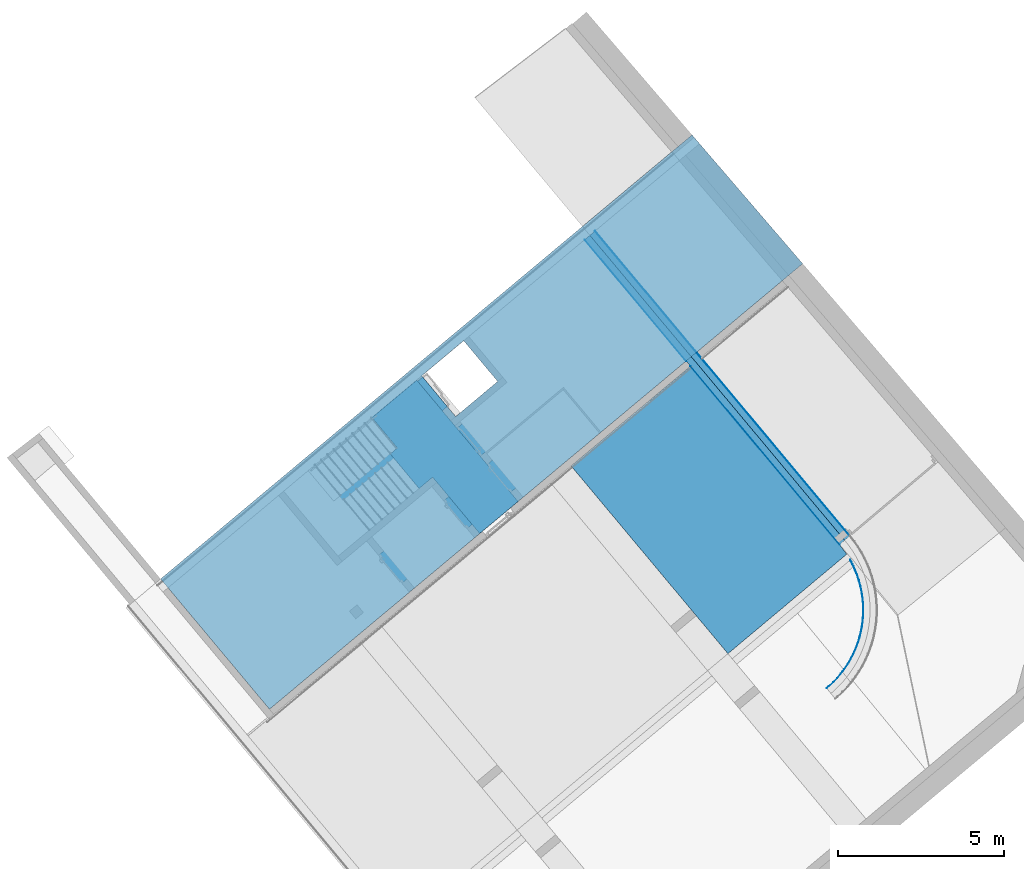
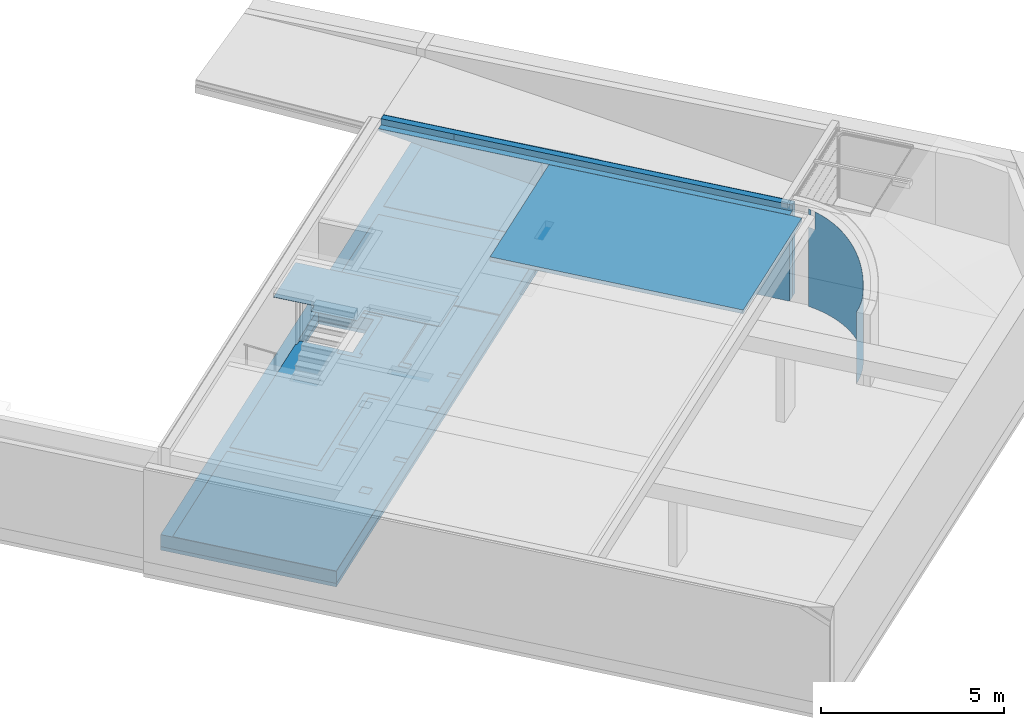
# One storey, part 10 of 14: 11 building element parts, 5 elements without a shape of their own.
"""IFC4 building model written with IfcOpenShell, lengths in metres."""

from ifc_helpers import new_model, entity, si_unit, converted_unit, derived_unit, direction, frame, origin_with_axes, place, context, subcontext, project, spatial, polygons, material, type_object, element, aggregate, save


model = new_model("IFC4")

# Units and contexts
model_context = context("Model", 3, precision=1e-05, world=origin_with_axes(), true_north=direction((0.0, 1.0)))
body_context = subcontext(model_context, "Body", "Model", "MODEL_VIEW")
ifc_project = project(units=[si_unit("LENGTHUNIT", "METRE"), si_unit("AREAUNIT", "SQUARE_METRE"), si_unit("VOLUMEUNIT", "CUBIC_METRE"), converted_unit("PLANEANGLEUNIT", "DEGREE", entity("IfcPlaneAngleMeasure", 0.0174532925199), si_unit("PLANEANGLEUNIT", "RADIAN"), dimensions=[0, 0, 0, 0, 0, 0, 0]), converted_unit("TIMEUNIT", "Year", entity("IfcTimeMeasure", 31556926.0), si_unit("TIMEUNIT", "SECOND"), dimensions=[0, 0, 1, 0, 0, 0, 0]), si_unit("MASSUNIT", "GRAM", prefix="KILO"), si_unit("THERMODYNAMICTEMPERATUREUNIT", "DEGREE_CELSIUS"), si_unit("LUMINOUSINTENSITYUNIT", "LUMEN"), si_unit("ENERGYUNIT", "JOULE", prefix="MEGA"), derived_unit("THERMALCONDUCTANCEUNIT", [(si_unit("POWERUNIT", "WATT"), 1), (si_unit("LENGTHUNIT", "METRE"), -1), (si_unit("THERMODYNAMICTEMPERATUREUNIT", "KELVIN"), -1)]), derived_unit("SPECIFICHEATCAPACITYUNIT", [(si_unit("ENERGYUNIT", "JOULE"), 1), (si_unit("MASSUNIT", "GRAM", prefix="KILO"), -1), (si_unit("THERMODYNAMICTEMPERATUREUNIT", "KELVIN"), -1)]), derived_unit("MASSDENSITYUNIT", [(si_unit("MASSUNIT", "GRAM", prefix="KILO"), 1), (si_unit("VOLUMEUNIT", "CUBIC_METRE"), -1)])], contexts=[model_context])

# Site, building, storey, space
site_placement = place(None, frame((-0.00153261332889, -0.00661245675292, 0.0), z_axis=(0.0, 0.0, 1.0), x_axis=(1.0, 0.0, 0.0)))
site = spatial("IfcSite", under=ifc_project, at=site_placement, Name="Gelände", CompositionType="ELEMENT")
building_placement = place(site_placement, origin_with_axes())
building = spatial("IfcBuilding", under=site, at=building_placement, Name="Gebäude", CompositionType="ELEMENT")
storey_placement = place(building_placement, frame((0.0, 0.0, -3.3), z_axis=(0.0, 0.0, 1.0), x_axis=(1.0, 0.0, 0.0)))
storey = spatial("IfcBuildingStorey", under=building, at=storey_placement, Name="UG1", CompositionType="ELEMENT", Elevation=-3.3)
space_1_placement = place(storey_placement, frame((3.39972062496, 22.3471640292, 0.0), z_axis=(0.0, 0.0, 1.0), x_axis=(0.767365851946, 0.641209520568, 0.0)))
space_1 = spatial("IfcSpace", under=storey, at=space_1_placement, CompositionType="ELEMENT", PredefinedType="NOTDEFINED")

# Slab, building element parts
slab_type = type_object("IfcSlabType", Name="EB 02 Bodenplatte Einstellräume 535", PredefinedType="NOTDEFINED")
slab_placement = place(space_1_placement, frame((10.9242726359, 5.12701550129, 0.015), z_axis=(0.0, 0.0, 1.0), x_axis=(0.767365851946, -0.641209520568, 0.0)))
slab = element("IfcSlab", 1, at=slab_placement, inside=space_1, type_object=slab_type, Name="Decke-005", PredefinedType="NOTDEFINED")
ifc_material_1 = material(Name="Fliesen")
building_element_part_1_placement = place(slab_placement, origin_with_axes())
building_element_part_1 = element("IfcBuildingElementPart", 2, at=building_element_part_1_placement, material=ifc_material_1, Name="Fliesen", PredefinedType="NOTDEFINED", context=body_context, shape_type="Tessellation", body=[
    polygons([(0.0, 0.0, -0.015), (2.91156954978, -3.38842582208, -0.015), (0.228088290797, -0.265531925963, -0.015), (0.0651400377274, -0.0759013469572, -0.015), (-4.74195917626e-05, -3.96237258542e-05, -0.015), (0.0, 0.0, 0.0), (2.91156954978, -3.38842582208, 0.0), (-4.74195917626e-05, -3.96237258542e-05, 0.0)], [[[1, 2, 3, 4, 5]], [[6, 7, 2, 1]], [[4, 3, 2, 7, 8, 5]], [[1, 5, 8, 6]], [[6, 8, 7]]], closed=True),
    polygons([(-8.52949755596, -13.8084018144, -0.015), (-12.754417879, -17.3387376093, -0.015), (-15.817412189, -13.6731070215, -0.015), (-12.4796786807, -10.8841062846, -0.015), (-10.7104439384, -13.0014334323, -0.015), (-10.556970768, -12.8731915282, -0.015), (-9.82325546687, -12.2601003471, -0.015), (-9.46329339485, -12.6908840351, -0.015), (-9.30982022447, -12.562642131, -0.015), (-9.66978229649, -12.131858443, -0.015), (-7.85496992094, -10.6154044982, -0.015), (-7.49659853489, -11.0442845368, -0.015), (-7.3431253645, -10.9160426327, -0.015), (-7.70149675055, -10.4871625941, -0.015), (-7.82973865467, -10.3336894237, -0.015), (-10.6852126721, -12.7197183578, -0.015), (-12.3262054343, -10.7558644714, -0.015), (-8.31195981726, -7.4015721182, -0.015), (-8.28311508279, -7.43609198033, -0.015), (-8.1296419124, -7.30785007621, -0.015), (-7.38583886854, -8.19799446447, -0.015), (-7.53931203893, -8.32623636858, -0.015), (-7.09678040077, -8.85583497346, -0.015), (-6.94330723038, -8.72759306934, -0.015), (-7.0043192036, -8.65457714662, -0.015), (-5.58409177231, -7.46783766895, -0.015), (-5.71234465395, -7.31437367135, -0.015), (-6.73835723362, -6.08667422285, -0.015), (-3.24038403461, -3.16377765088, -0.015), (-0.177470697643, -6.82946324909, -0.015), (-2.74727251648, -8.97678500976, -0.015), (-3.84802719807, -7.65945966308, -0.015), (-3.8800876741, -7.62109137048, -0.015), (-6.228311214, -9.58326272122, -0.015), (-6.23797675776, -9.57169550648, -0.015), (-6.39144992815, -9.69993741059, -0.015), (-6.18276801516, -9.94967695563, -0.015), (-6.02929484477, -9.82143505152, -0.015), (-6.19625073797, -9.62163101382, -0.015), (-3.88639549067, -7.69152013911, -0.015), (-2.78564080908, -9.00884548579, -0.015), (-5.09549605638, -10.9389563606, -0.015), (-5.32396437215, -10.6655374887, -0.015), (-5.47743754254, -10.7937793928, -0.015), (-5.24896922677, -11.0671982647, -0.015), (-6.40773883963, -12.0354640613, -0.015), (-6.63779489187, -11.7601450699, -0.015), (-6.79126806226, -11.888386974, -0.015), (-6.56121201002, -12.1637059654, -0.015), (-8.37602438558, -13.6801599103, -0.015), (-8.60448975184, -13.4067445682, -0.015), (-8.75796292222, -13.5349864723, -0.015), (-10.341209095, -14.379581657, -0.015), (-10.1488462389, -14.6097914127, -0.015), (-9.91863648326, -14.4174285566, -0.015), (-10.1109993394, -14.187218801, -0.015), (-12.754417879, -17.3387376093, 0.0), (-8.52949755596, -13.8084018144, 0.0), (-15.817412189, -13.6731070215, 0.0), (-12.4796786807, -10.8841062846, 0.0), (-10.7104439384, -13.0014334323, 0.0), (-10.556970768, -12.8731915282, 0.0), (-9.82325546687, -12.2601003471, 0.0), (-9.46329339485, -12.6908840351, 0.0), (-9.30982022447, -12.562642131, 0.0), (-9.66978229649, -12.131858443, 0.0), (-7.85496992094, -10.6154044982, 0.0), (-7.49659853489, -11.0442845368, 0.0), (-7.3431253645, -10.9160426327, 0.0), (-7.70149675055, -10.4871625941, 0.0), (-7.82973865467, -10.3336894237, 0.0), (-10.6852126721, -12.7197183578, 0.0), (-12.3262054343, -10.7558644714, 0.0), (-8.31195981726, -7.4015721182, 0.0), (-8.28311508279, -7.43609198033, 0.0), (-8.1296419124, -7.30785007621, 0.0), (-7.38583886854, -8.19799446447, 0.0), (-7.53931203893, -8.32623636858, 0.0), (-7.09678040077, -8.85583497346, 0.0), (-6.94330723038, -8.72759306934, 0.0), (-7.0043192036, -8.65457714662, 0.0), (-5.58409177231, -7.46783766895, 0.0), (-5.71234465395, -7.31437367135, 0.0), (-6.73835723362, -6.08667422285, 0.0), (-3.24038403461, -3.16377765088, 0.0), (-0.177470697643, -6.82946324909, 0.0), (-2.74727251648, -8.97678500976, 0.0), (-3.84802719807, -7.65945966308, 0.0), (-3.8800876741, -7.62109137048, 0.0), (-6.228311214, -9.58326272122, 0.0), (-6.23797675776, -9.57169550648, 0.0), (-6.39144992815, -9.69993741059, 0.0), (-6.18276801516, -9.94967695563, 0.0), (-6.02929484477, -9.82143505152, 0.0), (-6.19625073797, -9.62163101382, 0.0), (-3.88639549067, -7.69152013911, 0.0), (-2.78564080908, -9.00884548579, 0.0), (-5.09549605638, -10.9389563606, 0.0), (-5.32396437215, -10.6655374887, 0.0), (-5.47743754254, -10.7937793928, 0.0), (-5.24896922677, -11.0671982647, 0.0), (-6.40773883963, -12.0354640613, 0.0), (-6.63779489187, -11.7601450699, 0.0), (-6.79126806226, -11.888386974, 0.0), (-6.56121201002, -12.1637059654, 0.0), (-8.37602438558, -13.6801599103, 0.0), (-8.60448975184, -13.4067445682, 0.0), (-8.75796292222, -13.5349864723, 0.0), (-10.341209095, -14.379581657, 0.0), (-10.1488462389, -14.6097914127, 0.0), (-9.91863648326, -14.4174285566, 0.0), (-10.1109993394, -14.187218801, 0.0)], [[[1, 2, 3, 4, 5, 6, 7, 8, 9, 10, 11, 12, 13, 14, 15, 16, 17, 18, 19, 20, 21, 22, 23, 24, 25, 26, 27, 28, 29, 30, 31, 32, 33, 34, 35, 36, 37, 38, 39, 40, 41, 42, 43, 44, 45, 46, 47, 48, 49, 50, 51, 52], [53, 54, 55, 56]], [[57, 2, 1, 58]], [[59, 3, 2, 57]], [[4, 3, 59, 60]], [[60, 61, 5, 4]], [[6, 5, 61, 62]], [[63, 7, 6, 62]], [[64, 8, 7, 63]], [[65, 9, 8, 64]], [[66, 10, 9, 65]], [[67, 11, 10, 66]], [[68, 12, 11, 67]], [[13, 12, 68, 69]], [[69, 70, 14, 13]], [[15, 14, 70, 71]], [[72, 16, 15, 71]], [[73, 17, 16, 72]], [[18, 17, 73, 74]], [[75, 19, 18, 74]], [[76, 20, 19, 75]], [[77, 21, 20, 76]], [[77, 78, 22, 21]], [[23, 22, 78, 79]], [[80, 24, 23, 79]], [[81, 25, 24, 80]], [[26, 25, 81, 82]], [[83, 27, 26, 82]], [[84, 28, 27, 83]], [[85, 29, 28, 84]], [[30, 29, 85, 86]], [[86, 87, 31, 30]], [[88, 32, 31, 87]], [[89, 33, 32, 88]], [[90, 34, 33, 89]], [[91, 35, 34, 90]], [[91, 92, 36, 35]], [[93, 37, 36, 92]], [[94, 38, 37, 93]], [[39, 38, 94, 95]], [[96, 40, 39, 95]], [[97, 41, 40, 96]], [[97, 98, 42, 41]], [[99, 43, 42, 98]], [[100, 44, 43, 99]], [[101, 45, 44, 100]], [[102, 46, 45, 101]], [[103, 47, 46, 102]], [[104, 48, 47, 103]], [[105, 49, 48, 104]], [[105, 106, 50, 49]], [[107, 51, 50, 106]], [[108, 52, 51, 107]], [[58, 1, 52, 108]], [[109, 110, 54, 53]], [[110, 111, 55, 54]], [[111, 112, 56, 55]], [[112, 109, 53, 56]], [[60, 59, 57, 58, 108, 107, 106, 105, 104, 103, 102, 101, 100, 99, 98, 97, 96, 95, 94, 93, 92, 91, 90, 89, 88, 87, 86, 85, 84, 83, 82, 81, 80, 79, 78, 77, 76, 75, 74, 73, 72, 71, 70, 69, 68, 67, 66, 65, 64, 63, 62, 61], [109, 112, 111, 110]]], closed=True),
    polygons([(-5.86581782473, -7.4426155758, -0.015), (-7.13255494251, -8.50109882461, -0.015), (-5.86597913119, -7.44260112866, -0.015), (-6.89183048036, -6.2149160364, -0.015), (-5.86581782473, -7.4426155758, 0.0), (-7.13255494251, -8.50109882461, 0.0), (-5.86597913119, -7.44260112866, 0.0), (-6.89183053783, -6.21491608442, 0.0)], [[[1, 2, 3, 4]], [[5, 6, 2, 1]], [[3, 2, 6, 7]], [[8, 4, 3, 7]], [[5, 1, 4, 8]], [[8, 7, 6, 5]]], closed=True),
    polygons([(-0.385863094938, -0.77854797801, -0.015), (2.72767971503, -4.4019248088, -0.015), (0.144822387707, -6.5601557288, -0.015), (-2.91809026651, -2.89446988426, -0.015), (-0.385863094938, -0.77854797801, 0.0), (2.72767971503, -4.4019248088, 0.0), (0.144822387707, -6.5601557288, 0.0), (-2.91809026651, -2.89446988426, 0.0)], [[[1, 2, 3, 4]], [[5, 6, 2, 1]], [[7, 3, 2, 6]], [[7, 8, 4, 3]], [[1, 4, 8, 5]], [[8, 7, 6, 5]]], closed=True),
])
ifc_material_2 = material(Name="WU-Beton")
building_element_part_2_placement = place(slab_placement, origin_with_axes())
building_element_part_2 = element("IfcBuildingElementPart", 3, at=building_element_part_2_placement, material=ifc_material_2, Name="WU-Beton", PredefinedType="NOTDEFINED", context=body_context, shape_type="Tessellation", body=[
    polygons([(-16.0418355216, -13.4045289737, -0.415), (-16.0418355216, -13.4045289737, -0.015), (0.0, 0.0, -0.015), (0.0, 0.0, -0.415), (-12.754417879, -17.3387376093, -0.415), (-12.754417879, -17.3387376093, -0.015), (3.34162378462, -3.88891425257, -0.015), (-8.15897771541, -7.27272999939, -0.015), (-6.89250180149, -6.21411275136, -0.015), (-5.86597913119, -7.44260112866, -0.015), (-7.13255494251, -8.50109882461, -0.015), (3.34162378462, -3.88891425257, -0.415), (-8.15897771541, -7.27272999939, -0.415), (-7.13255494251, -8.50109882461, -0.415), (-5.86597913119, -7.44260112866, -0.415), (-6.89250180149, -6.21411275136, -0.415)], [[[1, 2, 3, 4]], [[5, 6, 2, 1]], [[3, 2, 6, 7], [8, 9, 10, 11]], [[4, 3, 7, 12]], [[4, 12, 5, 1], [13, 14, 15, 16]], [[12, 7, 6, 5]], [[16, 9, 8, 13]], [[15, 10, 9, 16]], [[14, 11, 10, 15]], [[13, 8, 11, 14]]], closed=True),
])
ifc_material_3 = material(Name="Stampfbeton")
building_element_part_3_placement = place(slab_placement, origin_with_axes())
building_element_part_3 = element("IfcBuildingElementPart", 4, at=building_element_part_3_placement, material=ifc_material_3, Name="Stampfbeton", PredefinedType="NOTDEFINED", context=body_context, shape_type="Tessellation", body=[
    polygons([(0.0, 0.0, -0.535), (-16.0418355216, -13.4045289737, -0.535), (-16.0418355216, -13.4045289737, -0.415), (0.0, 0.0, -0.415), (3.34162378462, -3.88891425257, -0.535), (-12.754417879, -17.3387376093, -0.535), (-8.15897771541, -7.27272999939, -0.535), (-7.13255494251, -8.50109882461, -0.535), (-5.86597913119, -7.44260112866, -0.535), (-6.89250180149, -6.21411275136, -0.535), (-12.754417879, -17.3387376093, -0.415), (3.34162378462, -3.88891425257, -0.415), (-8.15897771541, -7.27272999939, -0.415), (-6.89250180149, -6.21411275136, -0.415), (-5.86597913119, -7.44260112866, -0.415), (-7.13255494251, -8.50109882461, -0.415)], [[[1, 2, 3, 4]], [[1, 5, 6, 2], [7, 8, 9, 10]], [[2, 6, 11, 3]], [[4, 3, 11, 12], [13, 14, 15, 16]], [[5, 1, 4, 12]], [[6, 5, 12, 11]], [[8, 7, 13, 16]], [[9, 8, 16, 15]], [[10, 9, 15, 14]], [[7, 10, 14, 13]]], closed=True),
])
aggregate(slab, [building_element_part_1, building_element_part_2, building_element_part_3])

# Space
space_2_placement = place(storey_placement, frame((8.10928015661, 32.5076602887, 0.0), z_axis=(0.0, 0.0, 1.0), x_axis=(-0.767366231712, -0.641209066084, 0.0)))
space_2 = spatial("IfcSpace", under=storey, at=space_2_placement, Name="Beschichtung", CompositionType="ELEMENT", PredefinedType="NOTDEFINED")

# Wall, building element parts
wall_type = type_object("IfcWallType", Name="AW KG 420", PredefinedType="NOTDEFINED")
wall_1_placement = place(space_2_placement, frame((3.71988693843, -0.349999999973, 0.0), z_axis=(0.0, 0.0, 1.0), x_axis=(1.97981365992e-05, 0.999999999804, 0.0)))
wall_1 = element("IfcWall", 5, at=wall_1_placement, inside=space_2, type_object=wall_type, Name="Wand-002", PredefinedType="NOTDEFINED")
ifc_material_4 = material(Name="Kalkzementputz KG")
building_element_part_4_placement = place(wall_1_placement, origin_with_axes())
building_element_part_4 = element("IfcBuildingElementPart", 6, at=building_element_part_4_placement, material=ifc_material_4, Name="Kalkzementputz KG", PredefinedType="NOTDEFINED", context=body_context, shape_type="Tessellation", body=[
    polygons([(5.12700579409, 0.419999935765, 2.05383533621), (0.349991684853, 0.419999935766, 2.81041622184), (0.349991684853, 0.419999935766, 3.08), (12.3397155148, 0.41999822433, 3.08), (12.3397155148, 0.41999822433, 0.0), (5.12700579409, 0.419999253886, 0.0), (5.12700578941, 0.405, 2.05381648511), (0.349991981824, 0.405, 2.81039732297), (0.349991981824, 0.405, 3.08), (12.349865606, 0.405, 3.08), (12.349865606, 0.419777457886, 3.08), (12.349865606, 0.419777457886, 0.0), (5.12700578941, 0.405, 0.0), (12.349865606, 0.405, 0.0)], [[[1, 2, 3, 4, 5, 6]], [[2, 1, 7, 8]], [[2, 8, 9, 3]], [[4, 3, 9, 10, 11]], [[4, 11, 12, 5]], [[13, 6, 5, 12, 14]], [[1, 6, 13, 7]], [[7, 13, 14, 10, 9, 8]], [[11, 10, 14, 12]]], closed=True),
])
ifc_material_5 = material(Name="XPS KG")
building_element_part_5_placement = place(wall_1_placement, origin_with_axes())
building_element_part_5 = element("IfcBuildingElementPart", 7, at=building_element_part_5_placement, material=ifc_material_5, Name="XPS KG", PredefinedType="NOTDEFINED", context=body_context, shape_type="Tessellation", body=[
    polygons([(5.12700578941, 0.405, 2.05381648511), (0.349991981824, 0.405, 2.81039732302), (0.349991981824, 0.405, 3.08), (12.349865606, 0.405, 3.08), (12.349865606, 0.405, 0.0), (5.12700578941, 0.405, 0.0), (5.12700572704, 0.204999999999, 2.05356513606), (0.349995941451, 0.205, 2.81014533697), (0.349995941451, 0.205, 3.08), (12.349865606, 0.205, 3.08), (12.349865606, 0.205, 0.0), (5.12700572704, 0.205, 0.0)], [[[1, 2, 3, 4, 5, 6]], [[2, 1, 7, 8]], [[2, 8, 9, 3]], [[10, 4, 3, 9]], [[5, 4, 10, 11]], [[12, 6, 5, 11]], [[1, 6, 12, 7]], [[7, 12, 11, 10, 9, 8]]], closed=True),
])
ifc_material_6 = material(Name="Stahlbeton Wand")
building_element_part_6_placement = place(wall_1_placement, origin_with_axes())
building_element_part_6 = element("IfcBuildingElementPart", 8, at=building_element_part_6_placement, material=ifc_material_6, Name="Stahlbeton Wand", PredefinedType="NOTDEFINED", context=body_context, shape_type="Tessellation", body=[
    polygons([(5.12700572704, 0.205000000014, 2.05356513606), (0.349995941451, 0.205, 2.81014533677), (0.349995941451, 0.205, 3.08), (2.47515027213, 0.205000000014, 3.08), (2.4751501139, 0.205, 2.88), (12.349865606, 0.205, 2.88), (12.349865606, 0.205, 0.0), (5.12700572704, 0.205, 0.0), (5.12700566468, 0.00500000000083, 2.05331378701), (0.349999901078, 0.00500000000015, 2.80989335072), (0.349999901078, 0.00500000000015, 2.88), (0.349995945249, 0.204808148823, 2.88), (0.349995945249, 0.204808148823, 3.08), (12.349865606, 0.00500000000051, 2.88), (12.349865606, 0.00500000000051, 0.0), (5.12700566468, 0.00500000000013, 0.0)], [[[1, 2, 3, 4, 5, 6, 7, 8]], [[2, 1, 9, 10]], [[2, 10, 11, 12, 13, 3]], [[13, 4, 3]], [[4, 13, 12, 5]], [[5, 12, 11, 14, 6]], [[14, 15, 7, 6]], [[16, 8, 7, 15]], [[1, 8, 16, 9]], [[9, 16, 15, 14, 11, 10]]], closed=True),
])
ifc_material_7 = material(Name="Zementputz")
building_element_part_7_placement = place(wall_1_placement, origin_with_axes())
building_element_part_7 = element("IfcBuildingElementPart", 9, at=building_element_part_7_placement, material=ifc_material_7, Name="Zementputz", PredefinedType="NOTDEFINED", context=body_context, shape_type="Tessellation", body=[
    polygons([(5.12700566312, 0.0, 2.05330750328), (5.12700566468, 0.00500000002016, 2.05331378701), (5.12700556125, 0.00499999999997, 2.88), (5.12700566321, 0.0, 2.88), (0.349999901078, 0.00500000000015, 2.80989335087), (0.350000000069, 0.0, 2.80988705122), (0.349999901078, 0.00500000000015, 2.88), (0.350000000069, 0.0, 2.88)], [[[1, 2, 3, 4]], [[5, 2, 1, 6]], [[2, 5, 7, 3]], [[3, 7, 8, 4]], [[6, 1, 4, 8]], [[5, 6, 8, 7]]], closed=True),
    polygons([(5.3270055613, 0.005, 2.88), (12.349865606, 0.00499999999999, 2.88), (12.349865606, 0.00499999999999, 0.0), (5.3270055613, 0.005, 0.0), (12.349865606, 0.0, 2.88), (5.32700566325, 0.0, 2.88), (12.349865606, 0.0, 0.0), (5.32700566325, 0.0, 0.0)], [[[1, 2, 3, 4]], [[5, 2, 1, 6]], [[2, 5, 7, 3]], [[7, 8, 4, 3]], [[6, 1, 4, 8]], [[5, 6, 8, 7]]], closed=True),
])
aggregate(wall_1, [building_element_part_4, building_element_part_5, building_element_part_6, building_element_part_7])

# Space
space_3_placement = place(storey_placement, frame((1.94844643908, 34.4071819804, 0.0), z_axis=(0.0, 0.0, 1.0), x_axis=(0.6411378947, -0.767425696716, 0.0)))
space_3 = spatial("IfcSpace", under=storey, at=space_3_placement, CompositionType="ELEMENT", PredefinedType="NOTDEFINED")

# Wall, building element part
wall_2_placement = place(space_3_placement, frame((20.4787029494, -3.28647441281, 0.0), z_axis=(0.0, 0.0, 1.0), x_axis=(0.00228131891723, 0.999997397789, 0.0)))
wall_2 = element("IfcWall", 10, at=wall_2_placement, inside=space_3, type_object=wall_type, Name="Wand-002", PredefinedType="NOTDEFINED")
building_element_part_8_placement = place(wall_2_placement, origin_with_axes())
building_element_part_8 = element("IfcBuildingElementPart", 11, at=building_element_part_8_placement, material=ifc_material_7, Name="Zementputz", PredefinedType="NOTDEFINED", context=body_context, shape_type="Tessellation", body=[
    polygons([(3.02590831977, 2.5169352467, 3.25716165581), (3.00917619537, 2.43435895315, 3.25125877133), (3.00917619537, 2.43435895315, 3.08000081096), (3.02590832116, 2.5169352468, 3.08000081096), (3.00911710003, 2.45924474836, 3.25118090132), (3.02080357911, 2.51691980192, 3.25530374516), (3.00911710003, 2.45924474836, 3.08000081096), (3.02080358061, 2.51691980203, 3.08000081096)], [[[1, 2, 3, 4]], [[5, 2, 1, 6]], [[2, 5, 7, 3]], [[8, 4, 3, 7]], [[6, 1, 4, 8]], [[5, 6, 8, 7]]], closed=True),
    polygons([(2.48922023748, 1.26206630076, 3.06466814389), (2.38191407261, 1.12290919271, 3.02592764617), (2.38191407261, 1.12290919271, 0.0), (2.48922023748, 1.26206630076, 0.0), (0.782190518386, 0.0948292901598, 2.44601306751), (0.950797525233, 0.144336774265, 2.50726794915), (1.11630322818, 0.203389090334, 2.56737244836), (1.27816778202, 0.271793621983, 2.62613051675), (1.43586321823, 0.349327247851, 2.68335049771), (1.58887516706, 0.435737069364, 2.73884575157), (1.73670453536, 0.530741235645, 2.79243526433), (1.87886913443, 0.634029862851, 2.84394423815), (2.01490525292, 0.745266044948, 2.89320466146), (2.14436916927, 0.864086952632, 2.940055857), (2.26683859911, 0.990105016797, 2.9843450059), (2.58840708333, 1.40712243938, 3.10044013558), (2.67915108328, 1.55760446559, 3.13312694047), (2.76115624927, 1.71302153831, 3.16262194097), (2.83415509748, 1.87286671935, 3.18882893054), (2.89790952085, 2.03661862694, 3.21166242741), (2.9522115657, 2.20374313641, 3.23104795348), (2.97814754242, 2.30241382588, 3.2402642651), (2.97297358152, 2.30239817, 3.2383811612), (2.94741214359, 2.2051523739, 3.22929794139), (2.89319837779, 2.03829955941, 3.20994393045), (2.82954760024, 1.87481386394, 3.18714755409), (2.75666742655, 1.71522854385, 3.16098316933), (2.67479557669, 1.56006413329, 3.13153611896), (2.58419909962, 1.4098267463, 3.09890245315), (2.48517350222, 1.26500642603, 3.06318861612), (2.37804178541, 1.12607554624, 3.02451109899), (2.26315339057, 0.993487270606, 2.98299605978), (2.14088305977, 0.867674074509, 2.93877891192), (2.01162961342, 0.749046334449, 2.89200388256), (1.87581464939, 0.637990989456, 2.84282354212), (1.73388116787, 0.534870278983, 2.79139830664), (1.58629212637, 0.440020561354, 2.73789591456), (1.43352892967, 0.353751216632, 2.68249087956), (1.27608985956, 0.276343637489, 2.62536392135), (1.11448844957, 0.208050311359, 2.56670137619), (0.949251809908, 0.149093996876, 2.5066945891), (0.780918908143, 0.099666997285, 2.44553928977), (0.682222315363, 0.0767160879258, 2.40966924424), (0.6821575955, 0.0715676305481, 2.40965734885), (2.26683859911, 0.990105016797, 0.0), (2.37804178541, 1.12607554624, 0.0), (2.48517350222, 1.26500642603, 0.0), (2.58840708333, 1.40712243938, 0.0), (0.782190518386, 0.0948292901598, 0.0), (0.950797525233, 0.144336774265, 0.0), (1.11630322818, 0.203389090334, 0.0), (1.27816778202, 0.271793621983, 0.0), (1.43586321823, 0.349327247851, 0.0), (1.58887516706, 0.435737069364, 0.0), (1.73670453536, 0.530741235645, 0.0), (1.87886913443, 0.634029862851, 0.0), (2.01490525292, 0.745266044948, 0.0), (2.14436916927, 0.864086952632, 0.0), (2.67915108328, 1.55760446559, 0.0), (2.76115624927, 1.71302153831, 0.0), (2.83415509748, 1.87286671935, 0.0), (2.89790952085, 2.03661862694, 0.0), (2.9522115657, 2.20374313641, 0.0), (2.99688411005, 2.37369512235, 0.0), (2.99688411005, 2.37369512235, 2.65000081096), (2.97814247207, 2.30239453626, 2.65000081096), (2.97814247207, 2.30239453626, 3.08000081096), (2.97814754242, 2.30241382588, 3.08000081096), (2.97297358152, 2.30239817, 3.08000081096), (2.97296851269, 2.30237888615, 3.08000081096), (2.97296851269, 2.30237888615, 2.65000081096), (2.99201206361, 2.37482806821, 2.65000081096), (2.99201206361, 2.37482806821, 0.0), (2.94741214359, 2.2051523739, 0.0), (2.89319837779, 2.03829955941, 0.0), (2.82954760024, 1.87481386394, 0.0), (2.75666742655, 1.71522854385, 0.0), (2.67479557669, 1.56006413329, 0.0), (2.58419909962, 1.4098267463, 0.0), (2.26315339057, 0.993487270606, 0.0), (2.14088305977, 0.867674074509, 0.0), (2.01162961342, 0.749046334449, 0.0), (1.87581464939, 0.637990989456, 0.0), (1.73388116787, 0.534870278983, 0.0), (1.58629212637, 0.440020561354, 0.0), (1.43352892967, 0.353751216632, 0.0), (1.27608985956, 0.276343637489, 0.0), (1.11448844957, 0.208050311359, 0.0), (0.949251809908, 0.149093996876, 0.0), (0.780918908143, 0.099666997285, 0.0), (0.610038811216, 0.0599305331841, 0.0), (0.610038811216, 0.0599305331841, 2.4), (0.682222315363, 0.0767160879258, 2.4), (0.6821575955, 0.0715676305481, 2.4), (0.611032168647, 0.0550281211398, 2.4), (0.611032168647, 0.0550281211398, 0.0), (3.02590832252, 2.51693525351, 0.0), (3.02590832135, 2.51693524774, 2.65000081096), (3.02080358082, 2.51691980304, 2.65000081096), (3.02080358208, 2.51691980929, 0.0), (0.437168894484, 0.0300142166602, 2.4), (0.437168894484, 0.0300142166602, 0.0), (0.262873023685, 0.0100156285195, 2.4), (0.0877197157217, 0.0, 2.4), (0.0, 0.0, 2.4), (0.0, -0.005, 2.4), (0.0878625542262, -0.005, 2.4), (0.263301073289, 0.00503193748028, 2.4), (0.437880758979, 0.0250630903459, 2.4), (0.437880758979, 0.0250630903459, 0.0), (0.262873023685, 0.0100156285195, 0.0), (0.0877197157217, 0.0, 0.0), (0.0, 0.0, 0.0), (0.0, -0.005, 0.0), (0.0878625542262, -0.005, 0.0), (0.263301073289, 0.00503193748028, 0.0)], [[[1, 2, 3, 4]], [[5, 6, 7, 8, 9, 10, 11, 12, 13, 14, 15, 2, 1, 16, 17, 18, 19, 20, 21, 22, 23, 24, 25, 26, 27, 28, 29, 30, 31, 32, 33, 34, 35, 36, 37, 38, 39, 40, 41, 42, 43, 44]], [[2, 15, 45, 3]], [[3, 46, 47, 4]], [[16, 1, 4, 48]], [[6, 5, 49, 50]], [[7, 6, 50, 51]], [[8, 7, 51, 52]], [[9, 8, 52, 53]], [[10, 9, 53, 54]], [[11, 10, 54, 55]], [[12, 11, 55, 56]], [[13, 12, 56, 57]], [[14, 13, 57, 58]], [[15, 14, 58, 45]], [[17, 16, 48, 59]], [[18, 17, 59, 60]], [[19, 18, 60, 61]], [[20, 19, 61, 62]], [[21, 20, 62, 63]], [[22, 21, 63, 64, 65, 66, 67, 68]], [[23, 22, 68, 69]], [[24, 23, 69, 70, 71, 72, 73, 74]], [[25, 24, 74, 75]], [[26, 25, 75, 76]], [[27, 26, 76, 77]], [[28, 27, 77, 78]], [[29, 28, 78, 79]], [[30, 29, 79, 47]], [[31, 30, 47, 46]], [[32, 31, 46, 80]], [[33, 32, 80, 81]], [[34, 33, 81, 82]], [[35, 34, 82, 83]], [[36, 35, 83, 84]], [[37, 36, 84, 85]], [[38, 37, 85, 86]], [[39, 38, 86, 87]], [[40, 39, 87, 88]], [[41, 40, 88, 89]], [[42, 41, 89, 90]], [[42, 90, 91, 92, 93, 43]], [[94, 44, 43, 93]], [[5, 44, 94, 95, 96, 49]], [[45, 80, 46, 3]], [[4, 47, 79, 48]], [[49, 90, 89, 50]], [[50, 89, 88, 51]], [[51, 88, 87, 52]], [[52, 87, 86, 53]], [[53, 86, 85, 54]], [[54, 85, 84, 55]], [[55, 84, 83, 56]], [[56, 83, 82, 57]], [[57, 82, 81, 58]], [[58, 81, 80, 45]], [[48, 79, 78, 59]], [[59, 78, 77, 60]], [[60, 77, 76, 61]], [[61, 76, 75, 62]], [[62, 75, 74, 63]], [[63, 74, 73, 64]], [[97, 98, 65, 64]], [[71, 66, 65, 98, 99, 72]], [[70, 67, 66, 71]], [[70, 69, 68, 67]], [[73, 72, 99, 100]], [[96, 91, 90, 49]], [[101, 92, 91, 102]], [[95, 94, 93, 92, 101, 103, 104, 105, 106, 107, 108, 109]], [[95, 109, 110, 96]], [[100, 97, 64, 73]], [[100, 99, 98, 97]], [[110, 102, 91, 96]], [[103, 101, 102, 111]], [[104, 103, 111, 112]], [[105, 104, 112, 113]], [[106, 105, 113, 114]], [[107, 106, 114, 115]], [[108, 107, 115, 116]], [[109, 108, 116, 110]], [[116, 111, 102, 110]], [[115, 112, 111, 116]], [[114, 113, 112, 115]]], closed=True),
])
aggregate(wall_2, [building_element_part_8])

# Covering, building element parts
covering_type = type_object("IfcCoveringType", Name="Vorsatzschale Garage 130", PredefinedType="NOTDEFINED")
covering_1_placement = place(storey_placement, frame((4.84376131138, 23.293170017, 2.88), z_axis=(0.0, 0.0, 1.0), x_axis=(1.0, 0.0, 0.0)))
covering_1 = element("IfcCovering", 12, at=covering_1_placement, inside=storey, type_object=covering_type, Name="Decke-005", PredefinedType="NOTDEFINED")
ifc_material_8 = material(Name="Holzwolledämmplatte")
building_element_part_9_placement = place(covering_1_placement, origin_with_axes())
building_element_part_9 = element("IfcBuildingElementPart", 13, at=building_element_part_9_placement, material=ifc_material_8, Name="Holzwolledämmplatte", PredefinedType="NOTDEFINED", context=body_context, shape_type="Tessellation", body=[
    polygons([(0.0, 0.0, -0.12), (4.73617146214, -5.66800114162, -0.12), (4.73617146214, -5.66800114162, 0.0), (0.0, 0.0, 0.0), (3.60211373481, 3.00991956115, -0.12), (8.12623171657, -2.40430715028, -0.12), (8.16631151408, -2.45248494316, -0.12), (8.27145318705, -2.59501027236, -0.12), (8.31990813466, -2.66913299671, -0.12), (7.96961175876, -2.96221541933, -0.12), (7.96961175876, -2.96221541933, 0.0), (3.60211373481, 3.00991956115, 0.0), (8.31990813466, -2.66913299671, 0.0), (8.27145318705, -2.59501027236, 0.0), (8.16631151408, -2.45248494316, 0.0), (8.12623171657, -2.40430715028, 0.0)], [[[1, 2, 3, 4]], [[2, 1, 5, 6, 7, 8, 9, 10]], [[2, 10, 11, 3]], [[12, 4, 3, 11, 13, 14, 15, 16]], [[5, 1, 4, 12]], [[6, 5, 12, 16]], [[7, 6, 16, 15]], [[8, 7, 15, 14]], [[9, 8, 14, 13]], [[10, 9, 13, 11]]], closed=True),
])
building_element_part_10_placement = place(covering_1_placement, origin_with_axes())
building_element_part_10 = element("IfcBuildingElementPart", 14, at=building_element_part_10_placement, material=ifc_material_7, Name="Zementputz", PredefinedType="NOTDEFINED", context=body_context, shape_type="Tessellation", body=[
    polygons([(4.73600796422, -5.66780547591, -0.12), (7.7470608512, -3.14844897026, -0.12), (7.96961175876, -2.96221541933, -0.12), (8.31990813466, -2.66913299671, -0.12), (8.27145318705, -2.59501027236, -0.12), (8.16631151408, -2.45248494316, -0.12), (8.12623171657, -2.40430715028, -0.12), (3.60211373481, 3.00991956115, -0.12), (0.0, 0.0, -0.12), (7.7470608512, -3.14844897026, -0.13), (4.73600796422, -5.66780547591, -0.13), (7.96961175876, -2.96221541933, -0.13), (8.31990813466, -2.66913299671, -0.13), (8.27145318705, -2.59501027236, -0.13), (8.16631151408, -2.45248494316, -0.13), (8.12623171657, -2.40430715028, -0.13), (3.60211373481, 3.00991956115, -0.13), (0.0, 0.0, -0.13)], [[[1, 2, 3, 4, 5, 6, 7, 8, 9]], [[10, 2, 1, 11]], [[2, 10, 12, 3]], [[4, 3, 12, 13]], [[5, 4, 13, 14]], [[6, 5, 14, 15]], [[7, 6, 15, 16]], [[8, 7, 16, 17]], [[9, 8, 17, 18]], [[11, 1, 9, 18]], [[10, 11, 18, 17, 16, 15, 14, 13, 12]]], closed=True),
])
aggregate(covering_1, [building_element_part_9, building_element_part_10])

# Covering, building element part
covering_2_placement = place(storey_placement, frame((3.24624745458, 22.2189221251, 2.88), z_axis=(0.0, 0.0, 1.0), x_axis=(1.0, 0.0, 0.0)))
covering_2 = element("IfcCovering", 15, at=covering_2_placement, inside=storey, type_object=covering_type, Name="Decke-005", PredefinedType="NOTDEFINED")
building_element_part_11_placement = place(covering_2_placement, origin_with_axes())
building_element_part_11 = element("IfcBuildingElementPart", 16, at=building_element_part_11_placement, material=ifc_material_7, Name="Zementputz", PredefinedType="NOTDEFINED", context=body_context, shape_type="Tessellation", body=[
    polygons([(0.0, 0.0, -0.12), (0.0, 0.0, -0.13), (-3.05956379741, 3.66153767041, -0.13), (-3.05956379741, 3.66153767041, -0.12), (-1.15876961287, -0.968265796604, -0.12), (-1.15876961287, -0.968265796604, -0.13), (-2.58084285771, 0.733596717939, -0.13), (-2.98835951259, 0.393076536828, -0.13), (-3.86030260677, 1.4365849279, -0.13), (-3.64479537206, 1.61664362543, -0.13), (-4.41133641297, 2.53409509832, -0.13), (-4.41133641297, 2.53409509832, -0.12), (-3.64479537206, 1.61664362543, -0.12), (-3.86030260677, 1.4365849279, -0.12), (-2.98835951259, 0.393076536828, -0.12), (-2.58084285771, 0.733596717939, -0.12)], [[[1, 2, 3, 4]], [[5, 6, 2, 1]], [[3, 2, 6, 7, 8, 9, 10, 11]], [[4, 3, 11, 12]], [[5, 1, 4, 12, 13, 14, 15, 16]], [[16, 7, 6, 5]], [[15, 8, 7, 16]], [[14, 9, 8, 15]], [[13, 10, 9, 14]], [[12, 11, 10, 13]]], closed=True),
])
aggregate(covering_2, [building_element_part_11])

save(model, "model.ifc")
